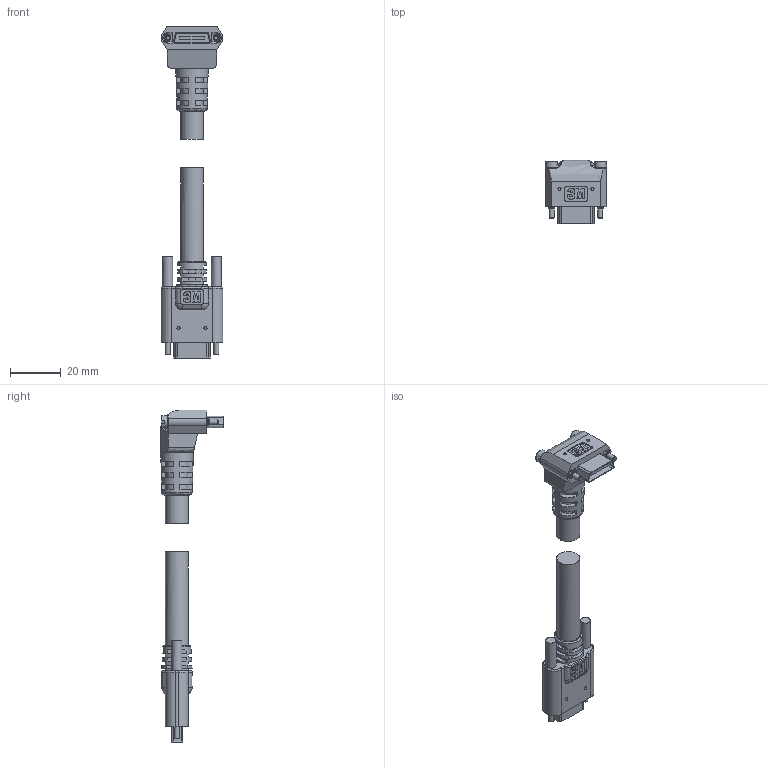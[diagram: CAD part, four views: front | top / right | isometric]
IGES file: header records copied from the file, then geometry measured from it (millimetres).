
Global section: file name: H:\dan 32008\1SF26-L137-00C-XXX_igs.igs; native system: NX V3.0; preprocessor: UGS NX IGES V3.0; date: 20080320.134055; units: millimetre
Bounding box: 24.4 x 24.9 x 130.8 mm (x, y, z)
Surface area: 9530.3 mm2 (no closed solid volume)
Topology: 0 solids, 0 shells, 486 faces, 3056 edges, 2997 vertices
Faces by surface type: bspline 486
